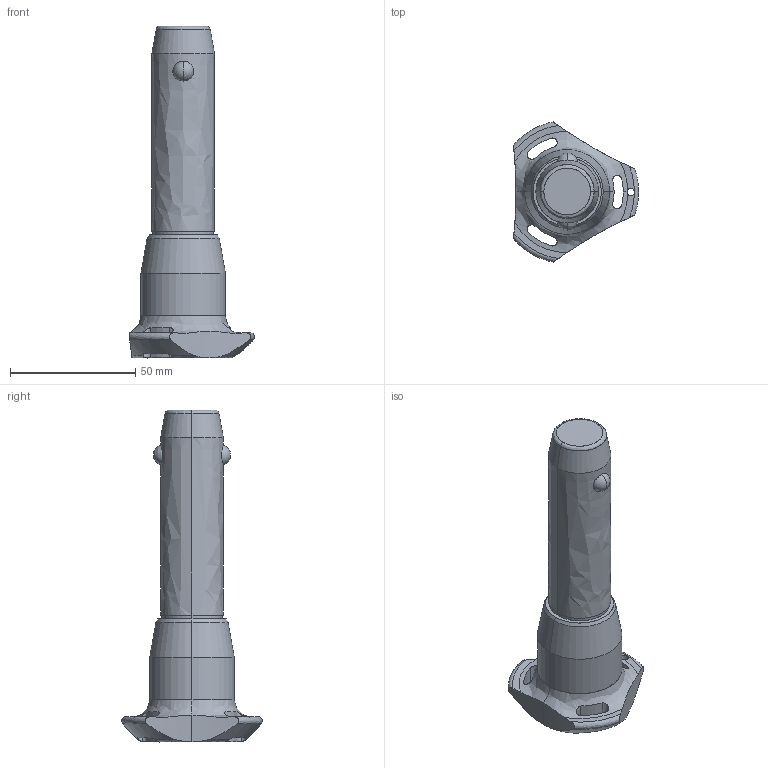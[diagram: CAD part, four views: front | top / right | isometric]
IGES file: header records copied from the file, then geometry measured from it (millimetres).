
Start section: SolidWorks IGES file using analytic representation for surfaces
Global section: file name: C:\Users\ianosborn\Desktop\QR1724_v2\QR1724_v2_20251112_IGES\QR1724.M25-060-S.igs; native system: SolidWorks 2019; preprocessor: SolidWorks 2019; author: IanOsborn; date: 251112.131102; units: millimetre
Bounding box: 50.04 x 56.02 x 132.7 mm (x, y, z)
Surface area: 16161.6 mm2 (no closed solid volume)
Topology: 0 solids, 0 shells, 65 faces, 1310 edges, 1306 vertices
Faces by surface type: revolution 50, bspline 15
